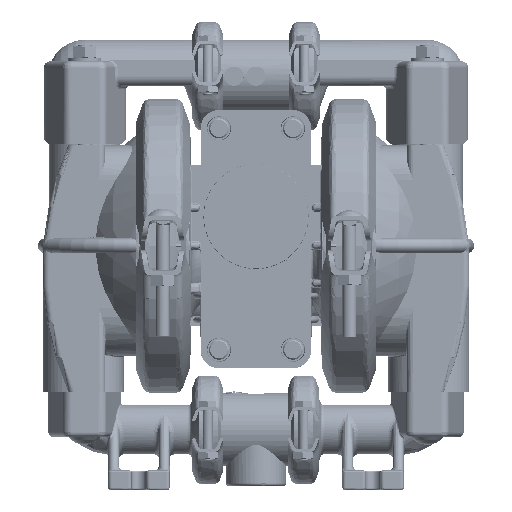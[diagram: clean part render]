
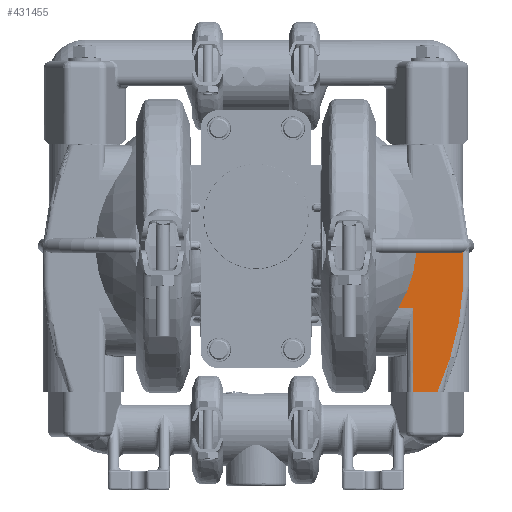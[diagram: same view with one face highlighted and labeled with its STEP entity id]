
A CAD part, top view. The second image highlights one B-rep face of the part: STEP entity #431455.
In plain terms, the highlighted planar face has unit normal (0, 0, 1).
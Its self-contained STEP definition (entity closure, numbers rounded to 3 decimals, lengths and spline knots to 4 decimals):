
#8803 = CARTESIAN_POINT ( 'NONE',  ( 2.962, -2.75, 1.24 ) ) ;
#14993 = CARTESIAN_POINT ( 'NONE',  ( 2.962, -1.18, 1.24 ) ) ;
#15257 = CARTESIAN_POINT ( 'NONE',  ( 3.8788, -0.1258, 1.24 ) ) ;
#20043 = CARTESIAN_POINT ( 'NONE',  ( 3.8587, -0.1322, 1.24 ) ) ;
#25869 = CARTESIAN_POINT ( 'NONE',  ( 3.8, -0.14, 1.24 ) ) ;
#26820 = CARTESIAN_POINT ( 'NONE',  ( 2.675, -1.18, 1.24 ) ) ;
#33630 = CARTESIAN_POINT ( 'NONE',  ( 3.5437, -2.4364, 1.24 ) ) ;
#38230 = ORIENTED_EDGE ( 'NONE', *, *, #333813, .T. ) ;
#40807 = CARTESIAN_POINT ( 'NONE',  ( 3.4117, -2.75, 1.24 ) ) ;
#52647 = CARTESIAN_POINT ( 'NONE',  ( 3.8965, -0.1174, 1.24 ) ) ;
#54153 = CARTESIAN_POINT ( 'NONE',  ( 3.8, -0.14, 1.24 ) ) ;
#56548 = CARTESIAN_POINT ( 'NONE',  ( 3.8528, -0.1337, 1.24 ) ) ;
#57587 = CARTESIAN_POINT ( 'NONE',  ( 3.5376, -0.14, 1.24 ) ) ;
#58685 = CARTESIAN_POINT ( 'NONE',  ( 2.675, -1.18, 1.24 ) ) ;
#58695 = CARTESIAN_POINT ( 'NONE',  ( 3.0128, -0.14, 1.24 ) ) ;
#59705 = EDGE_CURVE ( 'NONE', #374272, #135755, #149326, .T. ) ;
#61338 = CARTESIAN_POINT ( 'NONE',  ( 3.8896, -0.121, 1.24 ) ) ;
#62391 = CARTESIAN_POINT ( 'NONE',  ( 3.082, 1.89, 1.24 ) ) ;
#63625 = CARTESIAN_POINT ( 'NONE',  ( 3.4117, -2.75, 1.24 ) ) ;
#72521 = CARTESIAN_POINT ( 'NONE',  ( 3.886, -0.9484, 1.24 ) ) ;
#73250 = B_SPLINE_CURVE_WITH_KNOTS ( 'NONE', 3,
 ( #25869, #57587, #393343, #356837 ),
 .UNSPECIFIED., .F., .F.,
 ( 4, 4 ),
 ( 0., 1. ),
 .UNSPECIFIED. ) ;
#77329 = CARTESIAN_POINT ( 'NONE',  ( 3.8679, -1.1175, 1.24 ) ) ;
#79391 = CARTESIAN_POINT ( 'NONE',  ( 2.962, -2.2267, 1.24 ) ) ;
#81352 = VERTEX_POINT ( 'NONE', #399954 ) ;
#84341 = EDGE_CURVE ( 'NONE', #137904, #252255, #224768, .T. ) ;
#94093 = PLANE ( 'NONE',  #166070 ) ;
#98597 = CARTESIAN_POINT ( 'NONE',  ( 3.8964, -0.7785, 1.24 ) ) ;
#104883 = CARTESIAN_POINT ( 'NONE',  ( 2.962, -2.75, 1.24 ) ) ;
#114050 = ORIENTED_EDGE ( 'NONE', *, *, #59705, .T. ) ;
#120181 = CARTESIAN_POINT ( 'NONE',  ( 3.8, -0.14, 1.24 ) ) ;
#122135 = ORIENTED_EDGE ( 'NONE', *, *, #216680, .T. ) ;
#127898 = CARTESIAN_POINT ( 'NONE',  ( 3.8965, -0.776, 1.24 ) ) ;
#129513 = CARTESIAN_POINT ( 'NONE',  ( 3.8538, -0.1335, 1.24 ) ) ;
#135755 = VERTEX_POINT ( 'NONE', #396637 ) ;
#137904 = VERTEX_POINT ( 'NONE', #295801 ) ;
#142506 = EDGE_LOOP ( 'NONE', ( #185080, #114050, #432844, #312982, #421197, #335175, #38230, #122135, #477867 ) ) ;
#143754 = CARTESIAN_POINT ( 'NONE',  ( 3.1119, -2.75, 1.24 ) ) ;
#149326 = B_SPLINE_CURVE_WITH_KNOTS ( 'NONE', 3,
 ( #449283, #458903, #79391, #8803 ),
 .UNSPECIFIED., .F., .F.,
 ( 4, 4 ),
 ( 0., 1. ),
 .UNSPECIFIED. ) ;
#163616 = CARTESIAN_POINT ( 'NONE',  ( 3.8655, -0.1302, 1.24 ) ) ;
#166070 = AXIS2_PLACEMENT_3D ( 'NONE', #62391, #210776, #390981 ) ;
#168421 = CARTESIAN_POINT ( 'NONE',  ( 3.8178, -0.14, 1.24 ) ) ;
#170204 = EDGE_CURVE ( 'NONE', #252255, #349041, #246329, .T. ) ;
#185080 = ORIENTED_EDGE ( 'NONE', *, *, #383262, .T. ) ;
#194701 = EDGE_CURVE ( 'NONE', #135755, #137904, #354598, .T. ) ;
#196599 = B_SPLINE_CURVE_WITH_KNOTS ( 'NONE', 3,
 ( #275601, #61338, #15257, #163616, #20043, #312096, #129513, #56548, #278003, #168421, #54153 ),
 .UNSPECIFIED., .F., .F.,
 ( 4, 1, 1, 1, 2, 2, 4 ),
 ( 0., 0.25, 0.375, 0.4375, 0.4687, 0.5, 1. ),
 .UNSPECIFIED. ) ;
#199906 = CARTESIAN_POINT ( 'NONE',  ( 2.7707, -1.18, 1.24 ) ) ;
#210776 = DIRECTION ( 'NONE',  ( 0., 0., 1. ) ) ;
#216680 = EDGE_CURVE ( 'NONE', #287932, #377639, #73250, .T. ) ;
#224768 = B_SPLINE_CURVE_WITH_KNOTS ( 'NONE', 3,
 ( #40807, #366978, #33630, #291581, #255046, #259830, #337685, #77329, #72521, #405934 ),
 .UNSPECIFIED., .F., .F.,
 ( 4, 2, 2, 2, 4 ),
 ( 0., 0.25, 0.5, 0.75, 1. ),
 .UNSPECIFIED. ) ;
#239055 = CARTESIAN_POINT ( 'NONE',  ( 2.675, -1.18, 1.24 ) ) ;
#242526 = FACE_OUTER_BOUND ( 'NONE', #142506, .T. ) ;
#244230 = EDGE_CURVE ( 'NONE', #349041, #81352, #257209, .T. ) ;
#246329 = B_SPLINE_CURVE_WITH_KNOTS ( 'NONE', 3,
 ( #98597, #431997, #127898, #315281 ),
 .UNSPECIFIED., .F., .F.,
 ( 4, 4 ),
 ( 0., 1. ),
 .UNSPECIFIED. ) ;
#247146 = CARTESIAN_POINT ( 'NONE',  ( 3.8965, -0.7748, 1.24 ) ) ;
#252255 = VERTEX_POINT ( 'NONE', #398101 ) ;
#255046 = CARTESIAN_POINT ( 'NONE',  ( 3.7022, -1.9514, 1.24 ) ) ;
#257209 = B_SPLINE_CURVE_WITH_KNOTS ( 'NONE', 3,
 ( #247146, #432123, #320181, #52647 ),
 .UNSPECIFIED., .F., .F.,
 ( 4, 4 ),
 ( 0., 1. ),
 .UNSPECIFIED. ) ;
#259830 = CARTESIAN_POINT ( 'NONE',  ( 3.7835, -1.6208, 1.24 ) ) ;
#275601 = CARTESIAN_POINT ( 'NONE',  ( 3.8965, -0.1174, 1.24 ) ) ;
#278003 = CARTESIAN_POINT ( 'NONE',  ( 3.835, -0.138, 1.24 ) ) ;
#287932 = VERTEX_POINT ( 'NONE', #120181 ) ;
#291581 = CARTESIAN_POINT ( 'NONE',  ( 3.6543, -2.1145, 1.24 ) ) ;
#295801 = CARTESIAN_POINT ( 'NONE',  ( 3.4117, -2.75, 1.24 ) ) ;
#297905 = EDGE_CURVE ( 'NONE', #461573, #377639, #307858, .T. ) ;
#307858 = B_SPLINE_CURVE_WITH_KNOTS ( 'NONE', 3,
 ( #239055, #316878, #312072, #385097, #465337, #387500 ),
 .UNSPECIFIED., .F., .F.,
 ( 4, 2, 4 ),
 ( 0., 0.5, 1. ),
 .UNSPECIFIED. ) ;
#310835 = CARTESIAN_POINT ( 'NONE',  ( 3.8965, -0.7748, 1.24 ) ) ;
#312072 = CARTESIAN_POINT ( 'NONE',  ( 2.8525, -0.8564, 1.24 ) ) ;
#312096 = CARTESIAN_POINT ( 'NONE',  ( 3.8558, -0.133, 1.24 ) ) ;
#312982 = ORIENTED_EDGE ( 'NONE', *, *, #84341, .T. ) ;
#315281 = CARTESIAN_POINT ( 'NONE',  ( 3.8965, -0.7748, 1.24 ) ) ;
#316878 = CARTESIAN_POINT ( 'NONE',  ( 2.7736, -1.0244, 1.24 ) ) ;
#320181 = CARTESIAN_POINT ( 'NONE',  ( 3.8965, -0.3366, 1.24 ) ) ;
#333813 = EDGE_CURVE ( 'NONE', #81352, #287932, #196599, .T. ) ;
#335175 = ORIENTED_EDGE ( 'NONE', *, *, #244230, .T. ) ;
#337685 = CARTESIAN_POINT ( 'NONE',  ( 3.8166, -1.454, 1.24 ) ) ;
#348342 = CARTESIAN_POINT ( 'NONE',  ( 2.8663, -1.18, 1.24 ) ) ;
#349041 = VERTEX_POINT ( 'NONE', #310835 ) ;
#354598 = B_SPLINE_CURVE_WITH_KNOTS ( 'NONE', 3,
 ( #104883, #143754, #404189, #63625 ),
 .UNSPECIFIED., .F., .F.,
 ( 4, 4 ),
 ( 0., 1. ),
 .UNSPECIFIED. ) ;
#356837 = CARTESIAN_POINT ( 'NONE',  ( 3.0128, -0.14, 1.24 ) ) ;
#366978 = CARTESIAN_POINT ( 'NONE',  ( 3.4812, -2.5946, 1.24 ) ) ;
#374272 = VERTEX_POINT ( 'NONE', #457523 ) ;
#377639 = VERTEX_POINT ( 'NONE', #58695 ) ;
#383262 = EDGE_CURVE ( 'NONE', #461573, #374272, #435784, .T. ) ;
#385097 = CARTESIAN_POINT ( 'NONE',  ( 2.9663, -0.5061, 1.24 ) ) ;
#387500 = CARTESIAN_POINT ( 'NONE',  ( 3.0128, -0.14, 1.24 ) ) ;
#390981 = DIRECTION ( 'NONE',  ( 1., 0., 0. ) ) ;
#393343 = CARTESIAN_POINT ( 'NONE',  ( 3.2752, -0.14, 1.24 ) ) ;
#396637 = CARTESIAN_POINT ( 'NONE',  ( 2.962, -2.75, 1.24 ) ) ;
#398101 = CARTESIAN_POINT ( 'NONE',  ( 3.8964, -0.7785, 1.24 ) ) ;
#399954 = CARTESIAN_POINT ( 'NONE',  ( 3.8965, -0.1174, 1.24 ) ) ;
#404189 = CARTESIAN_POINT ( 'NONE',  ( 3.2618, -2.75, 1.24 ) ) ;
#405934 = CARTESIAN_POINT ( 'NONE',  ( 3.8964, -0.7785, 1.24 ) ) ;
#421197 = ORIENTED_EDGE ( 'NONE', *, *, #170204, .T. ) ;
#431455 = ADVANCED_FACE ( 'NONE', ( #242526 ), #94093, .T. ) ;
#431997 = CARTESIAN_POINT ( 'NONE',  ( 3.8965, -0.7773, 1.24 ) ) ;
#432123 = CARTESIAN_POINT ( 'NONE',  ( 3.8965, -0.5557, 1.24 ) ) ;
#432844 = ORIENTED_EDGE ( 'NONE', *, *, #194701, .T. ) ;
#435784 = B_SPLINE_CURVE_WITH_KNOTS ( 'NONE', 3,
 ( #58685, #199906, #348342, #14993 ),
 .UNSPECIFIED., .F., .F.,
 ( 4, 4 ),
 ( 0., 1. ),
 .UNSPECIFIED. ) ;
#449283 = CARTESIAN_POINT ( 'NONE',  ( 2.962, -1.18, 1.24 ) ) ;
#457523 = CARTESIAN_POINT ( 'NONE',  ( 2.962, -1.18, 1.24 ) ) ;
#458903 = CARTESIAN_POINT ( 'NONE',  ( 2.962, -1.7033, 1.24 ) ) ;
#461573 = VERTEX_POINT ( 'NONE', #26820 ) ;
#465337 = CARTESIAN_POINT ( 'NONE',  ( 3.0011, -0.3238, 1.24 ) ) ;
#477867 = ORIENTED_EDGE ( 'NONE', *, *, #297905, .F. ) ;
